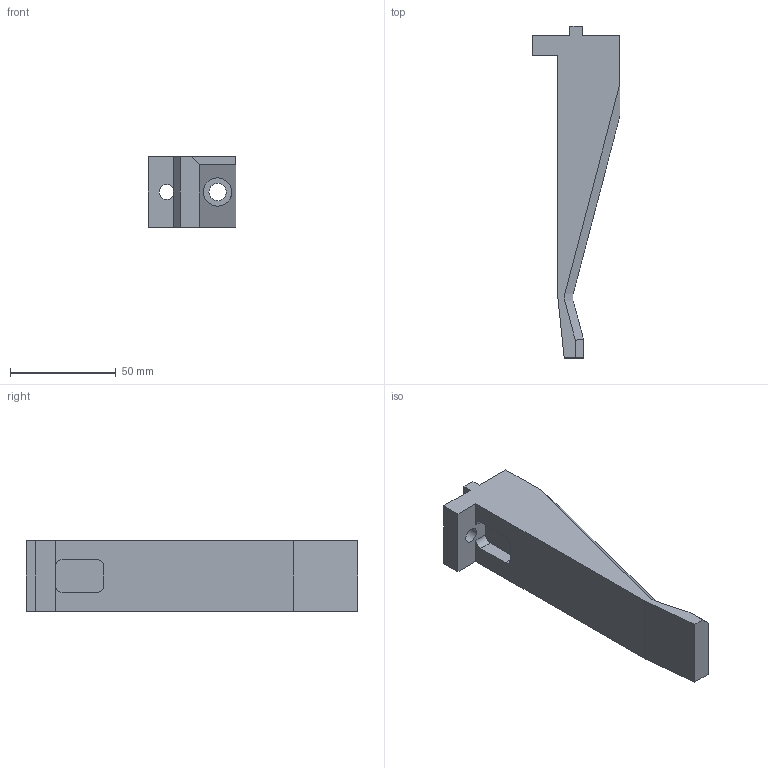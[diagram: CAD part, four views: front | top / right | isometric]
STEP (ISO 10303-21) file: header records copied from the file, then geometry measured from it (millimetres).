
FILE_DESCRIPTION (( 'STEP AP203' ), '1' );
FILE_NAME ('269-18-401.STEP', '2020-03-02T20:39:18', ( '' ), ( '' ), 'SwSTEP 2.0', 'SolidWorks 2017', '' );
FILE_SCHEMA (( 'CONFIG_CONTROL_DESIGN' ));
Length unit declared in the file: inch
Products named in the file (1): 269-18-401
Bounding box: 41.5 x 156.72 x 33.4 mm (x, y, z)
Volume: 90410.4 mm3; surface area: 21438.9 mm2
Topology: 1 solids, 1 shells, 36 faces, 96 edges, 63 vertices
Faces by surface type: plane 26, cylinder 10
Entity records: 1201 total; most frequent: CARTESIAN_POINT 202, ORIENTED_EDGE 192, DIRECTION 186, EDGE_CURVE 96, LINE 76, VECTOR 76, VERTEX_POINT 63, AXIS2_PLACEMENT_3D 55
